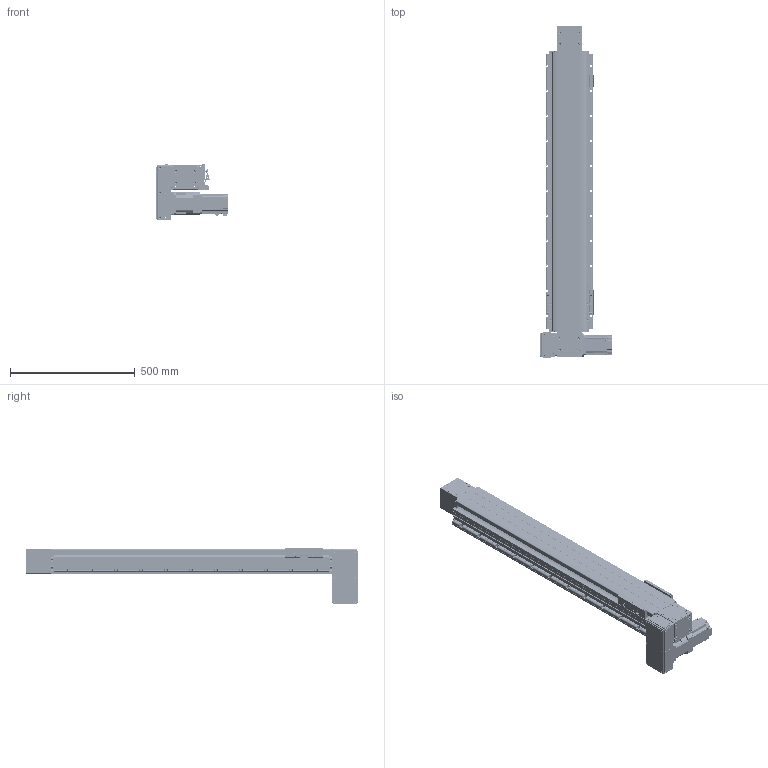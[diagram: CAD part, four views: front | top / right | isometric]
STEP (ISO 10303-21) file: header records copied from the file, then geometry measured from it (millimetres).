
FILE_DESCRIPTION(/* description */ (''),/* implementation_level */ '2;1');
FILE_NAME(/* name */ '\\192.168.0.160\disk1\HAN SHIN Master\B-설계부문\C-표준\B-2024년\BC02-표준도면\+로봇 개선표준도면\홈페이지 표준 도면\홈페이지 최종 작업 폴더\3D\HSB\HSB160\HSB160-DL7G-N-0900-R.stp',/* time_stamp */ '2025-01-10T08:52:00+09:00',/* author */ ('user'),/* organization */ (''),/* preprocessor_version */ 'ST-DEVELOPER v18.1',/* originating_system */ 'Autodesk Inventor 2022',/* authorisation */ '');
FILE_SCHEMA (('AUTOMOTIVE_DESIGN { 1 0 10303 214 3 1 1 }'));
Products named in the file (42): HSB160-DL7G-N-0500-R; BASE; HSB160 TABLE (TEST); FORNT HOUSUNG-1 (Connecting); UPCOVER; HSB160 COVER-1; REAR HOUSUNG-1---; HSB160 REAR SHAFT-2; REAR SHAFT--2; 6004ZZ; 6004ZZ Outer ring; 6004ZZ Shield1; 6004ZZ Inner ring; 6004ZZ Ball; 6004ZZ Shield2; STOPPER3; TENSION PLATE; HSB160 ARC COVER; hsr_ftht_A-M6F_grease_nipple_joint; NIPPLE CAP(신규); SIDE COVER; hg-kr73_; PGX90-H-1_3; HSB160 BEARING OVER; HSB160 END COVER; HSB160 SHAFT-1; 6206ZZ; 6206ZZ Outer ring; 6206ZZ Shield1; 6206ZZ Inner ring; 6206ZZ Ball; 6206ZZ Shield2; HR120 SENSOR DOG; SENSOR BRK(EE-SX674A); EE_SX674A; D MOTOR PLATE ASSY; HSB160 D MOTOR PLATE; HR160 400W LR BELT COVER; 750W MOTOR PLATE; HR180 ACRYL COVER - 1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
Assembly tree (87 placements, depth 3):
  HSB160-DL7G-N-0500-R
    BASE
    HSB160 TABLE (TEST)
    FORNT HOUSUNG-1 (Connecting)
    UPCOVER
    HSB160 COVER-1  x2
    REAR HOUSUNG-1---
    6004ZZ  x2
      6004ZZ Outer ring
      6004ZZ Shield1
      6004ZZ Inner ring
      6004ZZ Ball
      6004ZZ Shield2
    HSB160 REAR SHAFT-2
    REAR SHAFT--2
    TENSION PLATE  x2
    HSB160 ARC COVER  x4
    STOPPER3  x4
    SIDE COVER  x2
    hsr_ftht_A-M6F_grease_nipple_joint  x4
    NIPPLE CAP(신규)  x4
    hg-kr73_
    PGX90-H-1_3
    HSB160 BEARING OVER
    HSB160 END COVER
    6206ZZ  x2
      6206ZZ Outer ring
      6206ZZ Shield1
      6206ZZ Inner ring
      6206ZZ Ball
      6206ZZ Shield2
    HSB160 SHAFT-1
    HR120 SENSOR DOG
    SENSOR BRK(EE-SX674A)  x3
    EE_SX674A  x3
    D MOTOR PLATE ASSY
      HSB160 D MOTOR PLATE
      HR160 400W LR BELT COVER
      750W MOTOR PLATE
      HR180 ACRYL COVER - 1_2  x2
      HR180 ACRYL COVER - 1
      HR180 ACRYL COVER - 1_1
Bounding box: 284.5 x 1328.5 x 226.5 mm (x, y, z)
Volume: 9161305.9 mm3; surface area: 2386763.6 mm2
Topology: 131 solids, 133 shells, 6554 faces, 18011 edges, 11840 vertices
Faces by surface type: plane 4580, cylinder 1421, cone 381, sphere 88, torus 59, bspline 25
Full cylindrical faces by diameter (mm): 2.013 x2, 2.459 x54, 3 x20, 3.242 x50, 3.4 x22, 3.5 x6, 4.134 x18, 4.2 x4, 4.5 x40, 4.917 x80, 5 x44, 5.1 x1, 5.5 x25, 5.6 x4, 5.9 x4, 6 x21, 6.5 x9, 6.6 x18, 6.8 x9, 7 x32, 7.6 x4, 8 x5, 8.376 x22, 8.433 x2, 9 x4, 9.5 x31, 10 x5, 11 x28, 15 x8, 18.5 x2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
Entity records: 120721 total; most frequent: CARTESIAN_POINT 22829, DIRECTION 20098, ORIENTED_EDGE 19478, EDGE_CURVE 9739, AXIS2_PLACEMENT_3D 6844, VERTEX_POINT 6441, LINE 6410, VECTOR 6410
